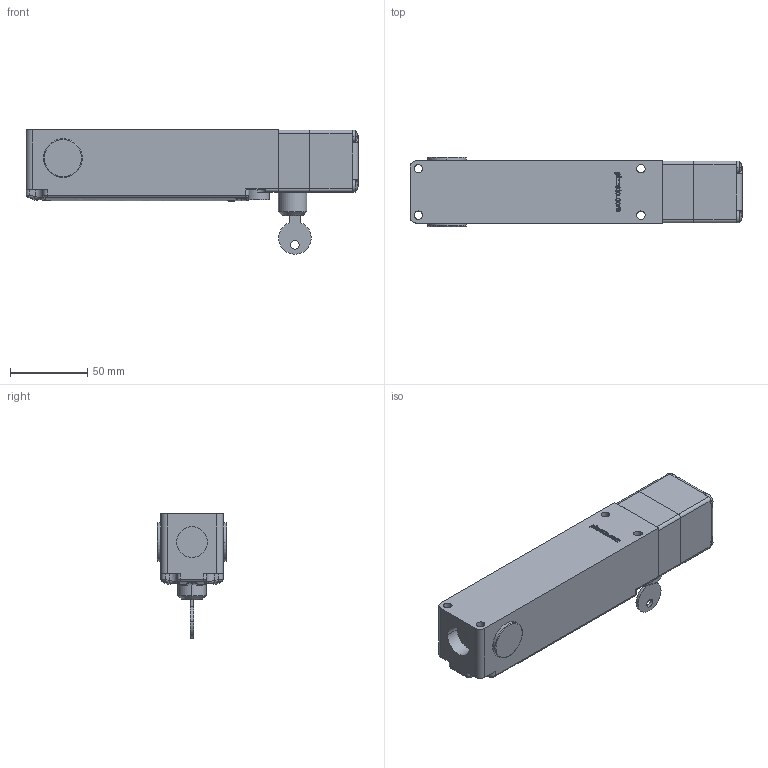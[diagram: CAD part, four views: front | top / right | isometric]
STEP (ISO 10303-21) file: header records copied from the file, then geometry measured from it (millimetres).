
FILE_DESCRIPTION (( 'STEP AP203' ), '1' );
FILE_NAME ('Pizzato_FG_xxxD5DxA.step', '2009-01-29T19:28:08', ( 'Pizzato Elettrica Srl' ), ( '' ), 'SwSTEP 2.0', 'SolidWorks 2008', '' );
FILE_SCHEMA (( 'CONFIG_CONTROL_DESIGN' ));
Length unit declared in the file: millimetre
Products named in the file (6): Pizzato_Modulo_TGD5; Pizzato_FG_xxxD5DxA; Pizzato_Custodia_FG_ND Con LED; Pizzato_Supporto_TGD1_TGD1; Pizzato_Chiave_Serratura_Chiave; Pizzato_Tappo_Protezione_PG13_M20_PG13
Assembly tree (6 placements, depth 2):
  Pizzato_FG_xxxD5DxA
    Pizzato_Supporto_TGD1_TGD1
    Pizzato_Tappo_Protezione_PG13_M20_PG13  x2
    Pizzato_Modulo_TGD5
    Pizzato_Custodia_FG_ND Con LED
    Pizzato_Chiave_Serratura_Chiave
Bounding box: 214.8 x 45 x 80.5 mm (x, y, z)
Volume: 366623.7 mm3; surface area: 59298 mm2
Topology: 6 solids, 6 shells, 547 faces, 1404 edges, 916 vertices
Faces by surface type: plane 306, cylinder 132, bspline 79, sphere 18, torus 10, cone 2
Entity records: 21576 total; most frequent: CARTESIAN_POINT 8237, ORIENTED_EDGE 2776, DIRECTION 2376, EDGE_CURVE 1388, VERTEX_POINT 906, VECTOR 858, LINE 858, AXIS2_PLACEMENT_3D 759
